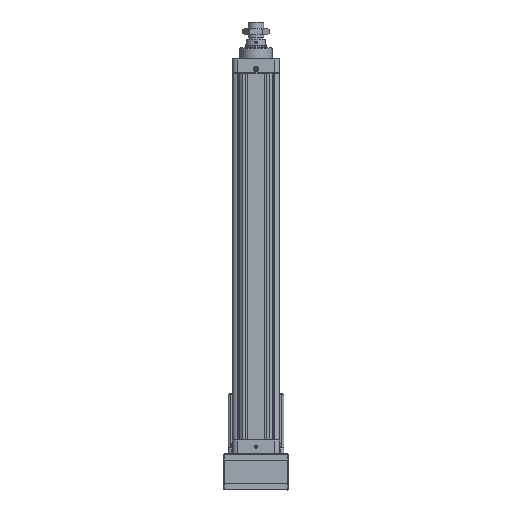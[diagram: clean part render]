
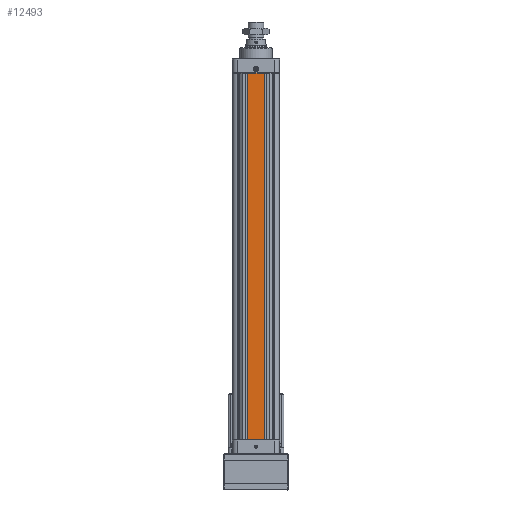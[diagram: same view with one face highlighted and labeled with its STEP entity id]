
A CAD part, top view. The second image highlights one B-rep face of the part: STEP entity #12493.
In plain terms, the highlighted planar face has unit normal (0, 0, 1).
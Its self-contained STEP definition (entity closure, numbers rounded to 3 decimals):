
#5963=DIRECTION('',(1.,0.,0.));
#5964=VECTOR('',#5963,38.4);
#5965=CARTESIAN_POINT('',(-19.2,428.5,55.));
#5966=LINE('',#5965,#5964);
#5967=DIRECTION('',(0.,1.,0.));
#5968=VECTOR('',#5967,857.);
#5969=CARTESIAN_POINT('',(19.2,-428.5,55.));
#5970=LINE('',#5969,#5968);
#5971=DIRECTION('',(-1.,0.,0.));
#5972=VECTOR('',#5971,38.4);
#5973=CARTESIAN_POINT('',(19.2,-428.5,55.));
#5974=LINE('',#5973,#5972);
#5975=DIRECTION('',(0.,-1.,0.));
#5976=VECTOR('',#5975,857.);
#5977=CARTESIAN_POINT('',(-19.2,428.5,55.));
#5978=LINE('',#5977,#5976);
#6160=CARTESIAN_POINT('',(19.2,428.5,55.));
#8600=VERTEX_POINT('',#6160);
#8601=CARTESIAN_POINT('',(-19.2,428.5,55.));
#8602=VERTEX_POINT('',#8601);
#8844=CARTESIAN_POINT('',(19.2,-428.5,55.));
#8845=CARTESIAN_POINT('',(-19.2,-428.5,55.));
#8846=VERTEX_POINT('',#8844);
#8847=VERTEX_POINT('',#8845);
#12478=CARTESIAN_POINT('',(-55.,-429.,55.));
#12479=DIRECTION('',(0.,0.,1.));
#12480=DIRECTION('',(1.,0.,0.));
#12481=AXIS2_PLACEMENT_3D('',#12478,#12479,#12480);
#12482=PLANE('',#12481);
#12484=ORIENTED_EDGE('',*,*,#12483,.T.);
#12486=ORIENTED_EDGE('',*,*,#12485,.F.);
#12488=ORIENTED_EDGE('',*,*,#12487,.T.);
#12490=ORIENTED_EDGE('',*,*,#12489,.F.);
#12491=EDGE_LOOP('',(#12484,#12486,#12488,#12490));
#12492=FACE_OUTER_BOUND('',#12491,.F.);
#12493=ADVANCED_FACE('',(#12492),#12482,.T.);
#12483=EDGE_CURVE('',#8602,#8600,#5966,.T.);
#12485=EDGE_CURVE('',#8846,#8600,#5970,.T.);
#12487=EDGE_CURVE('',#8846,#8847,#5974,.T.);
#12489=EDGE_CURVE('',#8602,#8847,#5978,.T.);
